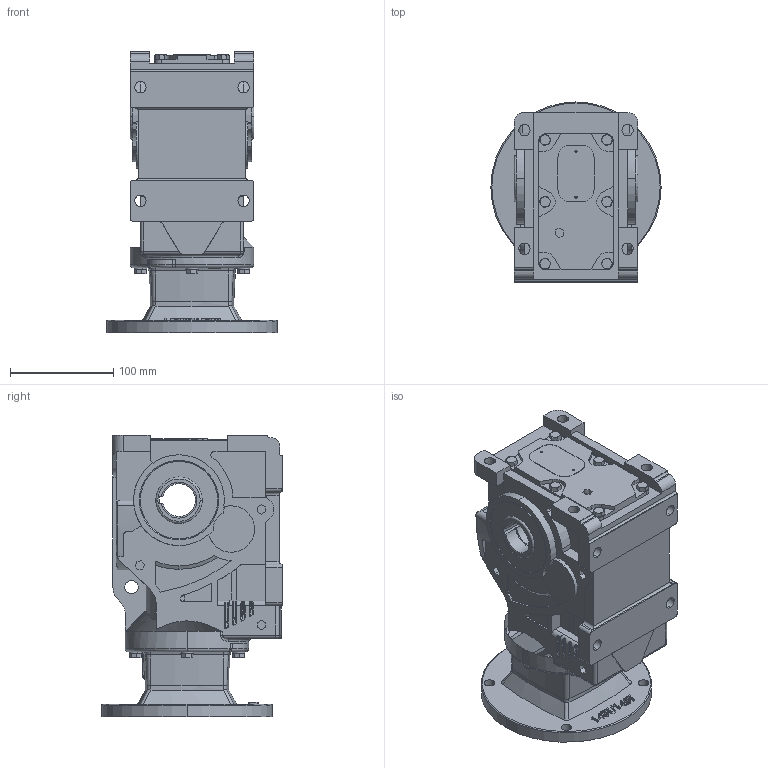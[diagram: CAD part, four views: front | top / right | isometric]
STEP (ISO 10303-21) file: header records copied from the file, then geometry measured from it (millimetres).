
FILE_DESCRIPTION (( 'STEP AP203' ), '1' );
FILE_NAME ('KHN37-143-5TC.STEP', '2022-04-07T02:39:31', ( 'user1' ), ( '' ), 'SwSTEP 2.0', 'SolidWorks 2012', '' );
FILE_SCHEMA (( 'CONFIG_CONTROL_DESIGN' ));
Length unit declared in the file: millimetre
Products named in the file (1): KHN37-143-5TC
Bounding box: 165.1 x 174.75 x 273 mm (x, y, z)
Volume: 3451416.5 mm3; surface area: 253635.2 mm2
Topology: 1 solids, 1 shells, 1032 faces, 2704 edges, 1742 vertices
Faces by surface type: plane 524, cylinder 276, bspline 97, cone 80, torus 29, sphere 26
Entity records: 37987 total; most frequent: CARTESIAN_POINT 13042, ORIENTED_EDGE 5400, DIRECTION 4851, EDGE_CURVE 2700, VERTEX_POINT 1742, AXIS2_PLACEMENT_3D 1641, VECTOR 1569, LINE 1569
